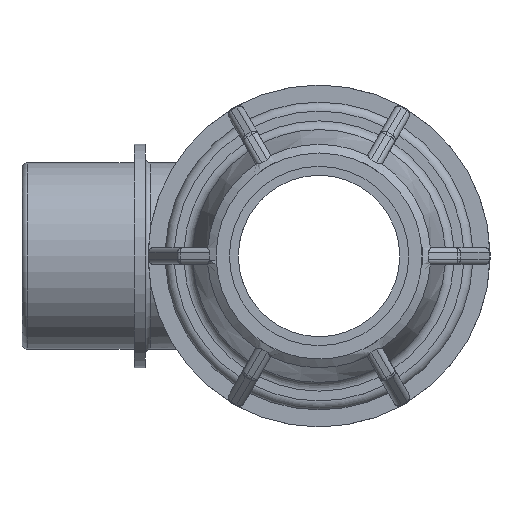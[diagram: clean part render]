
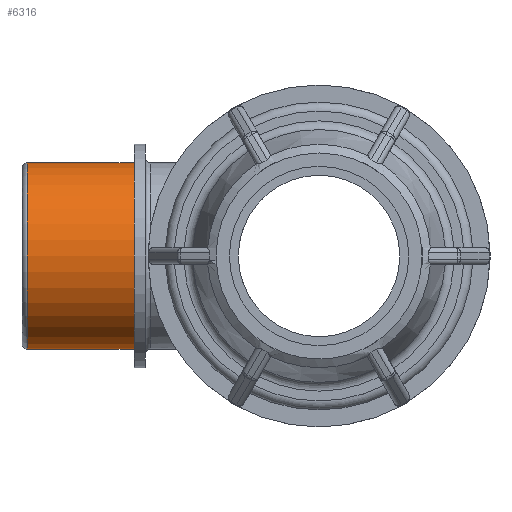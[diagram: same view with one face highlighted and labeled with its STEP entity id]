
A CAD part, left-side view. The second image highlights one B-rep face of the part: STEP entity #6316.
In plain terms, the highlighted cylindrical face has radius 16.625 mm (diameter 33.249 mm), a full revolution.
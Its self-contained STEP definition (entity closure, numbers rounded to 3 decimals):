
#1375=CIRCLE('',#7071,16.625);
#1377=CIRCLE('',#7074,16.625);
#1434=FACE_BOUND('',#2294,.T.);
#1846=FACE_OUTER_BOUND('',#2293,.T.);
#2293=EDGE_LOOP('',(#5771));
#2294=EDGE_LOOP('',(#5772));
#3029=VERTEX_POINT('',#12219);
#3031=VERTEX_POINT('',#12224);
#3946=EDGE_CURVE('',#3029,#3029,#1375,.T.);
#3948=EDGE_CURVE('',#3031,#3031,#1377,.T.);
#5771=ORIENTED_EDGE('',*,*,#3948,.T.);
#5772=ORIENTED_EDGE('',*,*,#3946,.F.);
#5908=CYLINDRICAL_SURFACE('',#7073,16.625);
#6316=ADVANCED_FACE('',(#1846,#1434),#5908,.T.);
#7071=AXIS2_PLACEMENT_3D('',#12220,#8938,#8939);
#7073=AXIS2_PLACEMENT_3D('',#12223,#8942,#8943);
#7074=AXIS2_PLACEMENT_3D('',#12225,#8944,#8945);
#8938=DIRECTION('center_axis',(0.,1.,0.));
#8939=DIRECTION('ref_axis',(1.,0.,0.));
#8942=DIRECTION('center_axis',(0.,1.,0.));
#8943=DIRECTION('ref_axis',(-1.,0.,0.));
#8944=DIRECTION('center_axis',(0.,1.,0.));
#8945=DIRECTION('ref_axis',(1.,0.,0.));
#12219=CARTESIAN_POINT('',(-16.625,52.04,0.));
#12220=CARTESIAN_POINT('Origin',(0.,52.04,0.));
#12223=CARTESIAN_POINT('Origin',(0.,43.,0.));
#12224=CARTESIAN_POINT('',(-16.625,33.,0.));
#12225=CARTESIAN_POINT('Origin',(0.,33.,0.));
